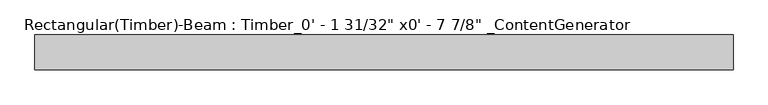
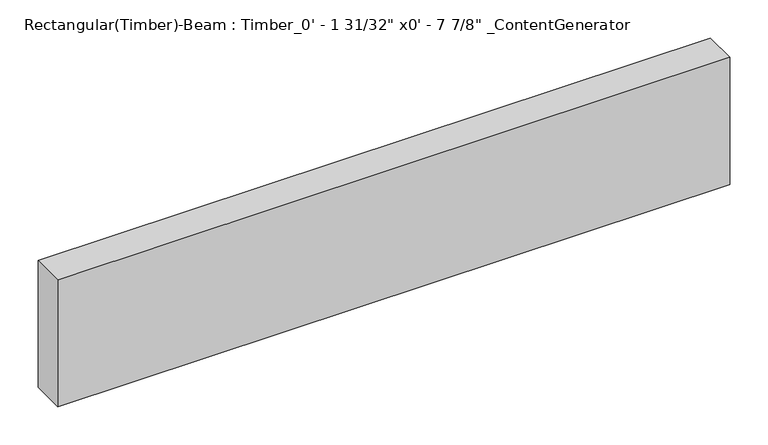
"""IFC4 building model written with IfcOpenShell, lengths in millimetres: beam geometry."""

from ifc_helpers import new_model, si_unit, frame, origin, place, context, project, spatial, polyline, outline, extrude, source, transform, mapped, element, save


def beam_b949707d(model_context):
    return source(origin(), model_context, "Body", "SweptSolid", [
        extrude(outline(polyline([(508.01, 25.4), (508.01, -25.4), (-508.01, -25.4), (-508.01, 25.4), (508.01, 25.4)])), frame((0.0, 0.0, -101.6), z_axis=(0.0, 0.0, 1.0), x_axis=(1.0, 0.0, 0.0)), (0.0, 0.0, 1.0), 203.2),
    ])


if __name__ == "__main__":
    model = new_model("IFC4")
    model_context = context("Model", 3, world=origin())
    ifc_project = project(units=[si_unit("LENGTHUNIT", "METRE", prefix="MILLI")], contexts=[model_context])
    site = spatial("IfcSite", under=ifc_project)
    building = spatial("IfcBuilding", under=site)
    placement = place(None, origin())
    beam_shape = beam_b949707d(model_context)
    element("IfcBeam", 1, ObjectType="Rectangular(Timber)-Beam : Timber_0' - 1 31/32\" x0' - 7 7/8\" _ContentGenerator", at=placement, inside=building, context=model_context, shape_type="MappedRepresentation", body=[
        mapped(beam_shape, transform((0.0, 0.0, 0.0), x_axis=(1.0, 0.0, 0.0), y_axis=(0.0, 1.0, 0.0), z_axis=(0.0, 0.0, 1.0))),
    ])
    save(model, "model.ifc")
